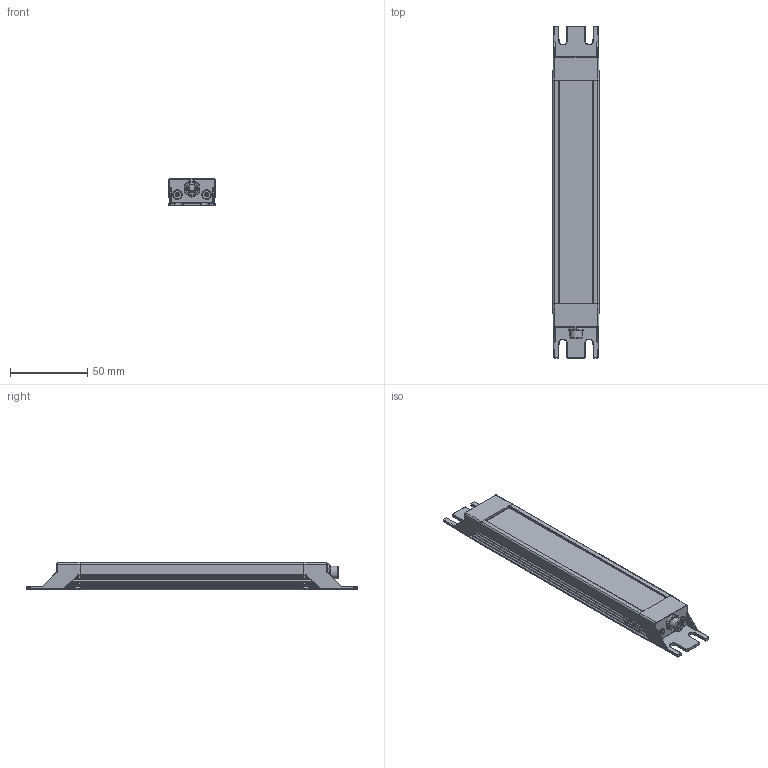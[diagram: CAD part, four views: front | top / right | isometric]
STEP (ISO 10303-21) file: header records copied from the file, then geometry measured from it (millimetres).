
FILE_DESCRIPTION(/* description */ (''),/* implementation_level */ '2;1');
FILE_NAME(/* name */ 'G:\Daten\Leuchten\09000 - LED SL - SL-RGBW\03 - CAD\SL140\sangel-led-sl-140.stp',/* time_stamp */ '2023-05-11T13:21:27+02:00',/* author */ ('gzahn'),/* organization */ (''),/* preprocessor_version */ 'ST-DEVELOPER v19',/* originating_system */ 'Autodesk Inventor 2023',/* authorisation */ '');
FILE_SCHEMA (('AUTOMOTIVE_DESIGN { 1 0 10303 214 3 1 1 }'));
Length unit declared in the file: millimetre
Products named in the file (1): sangel-led-sl-140
Bounding box: 30 x 215 x 17.55 mm (x, y, z)
Volume: 79598.4 mm3; surface area: 26418.2 mm2
Topology: 1 solids, 1 shells, 499 faces, 1288 edges, 782 vertices
Faces by surface type: cylinder 210, plane 195, cone 34, bspline 32, sphere 24, torus 4
Full cylindrical faces by diameter (mm): 1 x4, 5.5 x4, 5.8 x1, 8 x1
Entity records: 16754 total; most frequent: CARTESIAN_POINT 4266, ORIENTED_EDGE 2528, DIRECTION 2510, EDGE_CURVE 1264, AXIS2_PLACEMENT_3D 952, VERTEX_POINT 782, LINE 606, VECTOR 606
